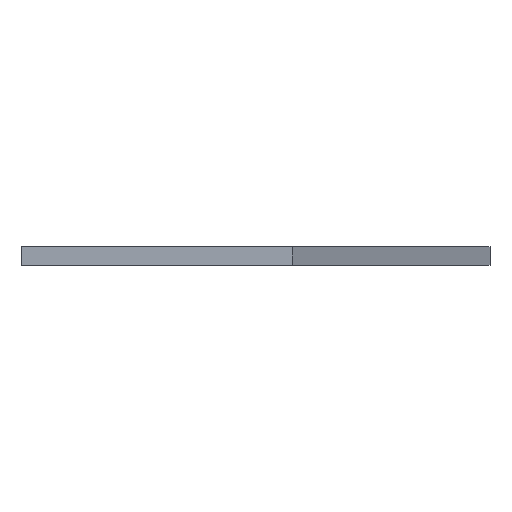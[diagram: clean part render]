
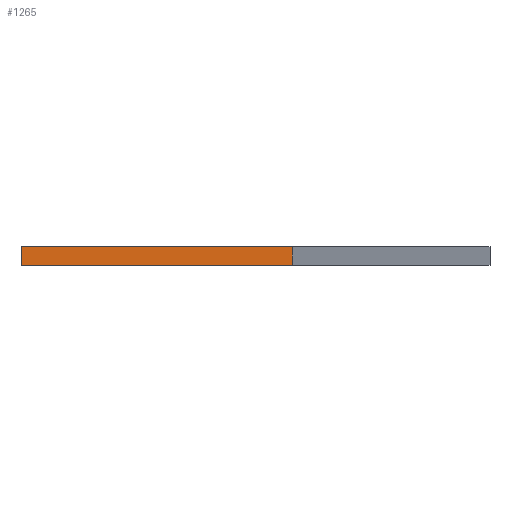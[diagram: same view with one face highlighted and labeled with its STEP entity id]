
A CAD part, front view. The second image highlights one B-rep face of the part: STEP entity #1265.
In plain terms, the highlighted planar face has unit normal (0, -1, 0).
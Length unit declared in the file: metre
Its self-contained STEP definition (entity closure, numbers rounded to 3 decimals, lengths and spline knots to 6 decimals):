
#125=ORIENTED_EDGE('',*,*,#453,.F.);
#126=ORIENTED_EDGE('',*,*,#446,.T.);
#127=ORIENTED_EDGE('',*,*,#403,.T.);
#128=ORIENTED_EDGE('',*,*,#460,.F.);
#403=EDGE_CURVE('',#577,#576,#696,.T.);
#446=EDGE_CURVE('',#618,#577,#729,.T.);
#453=EDGE_CURVE('',#618,#624,#731,.T.);
#460=EDGE_CURVE('',#624,#576,#738,.T.);
#576=VERTEX_POINT('',#1813);
#577=VERTEX_POINT('',#1815);
#618=VERTEX_POINT('',#1901);
#624=VERTEX_POINT('',#1915);
#696=LINE('',#1814,#849);
#729=LINE('',#1900,#882);
#731=LINE('',#1914,#884);
#738=LINE('',#1930,#891);
#849=VECTOR('',#1457,1.);
#882=VECTOR('',#1514,1.);
#884=VECTOR('',#1528,1.);
#891=VECTOR('',#1545,1.);
#1018=EDGE_LOOP('',(#125,#126,#127,#128));
#1121=FACE_BOUND('',#1018,.T.);
#1197=PLANE('',#1367);
#1265=ADVANCED_FACE('',(#1121),#1197,.T.);
#1367=AXIS2_PLACEMENT_3D('',#1929,#1543,#1544);
#1457=DIRECTION('',(-1.,0.,0.));
#1514=DIRECTION('',(0.,0.,1.));
#1528=DIRECTION('',(-1.,0.,0.));
#1543=DIRECTION('',(0.,-1.,0.));
#1544=DIRECTION('',(1.,0.,0.));
#1545=DIRECTION('',(0.,0.,1.));
#1813=CARTESIAN_POINT('',(-0.036097,-0.137603,-0.0247));
#1814=CARTESIAN_POINT('',(-0.010097,-0.137603,-0.0247));
#1815=CARTESIAN_POINT('',(0.015903,-0.137603,-0.0247));
#1900=CARTESIAN_POINT('',(0.015903,-0.137603,-0.02645));
#1901=CARTESIAN_POINT('',(0.015903,-0.137603,-0.0282));
#1914=CARTESIAN_POINT('',(-0.010097,-0.137603,-0.0282));
#1915=CARTESIAN_POINT('',(-0.036097,-0.137603,-0.0282));
#1929=CARTESIAN_POINT('',(-0.010097,-0.137603,0.0022));
#1930=CARTESIAN_POINT('',(-0.036097,-0.137603,-0.02645));
